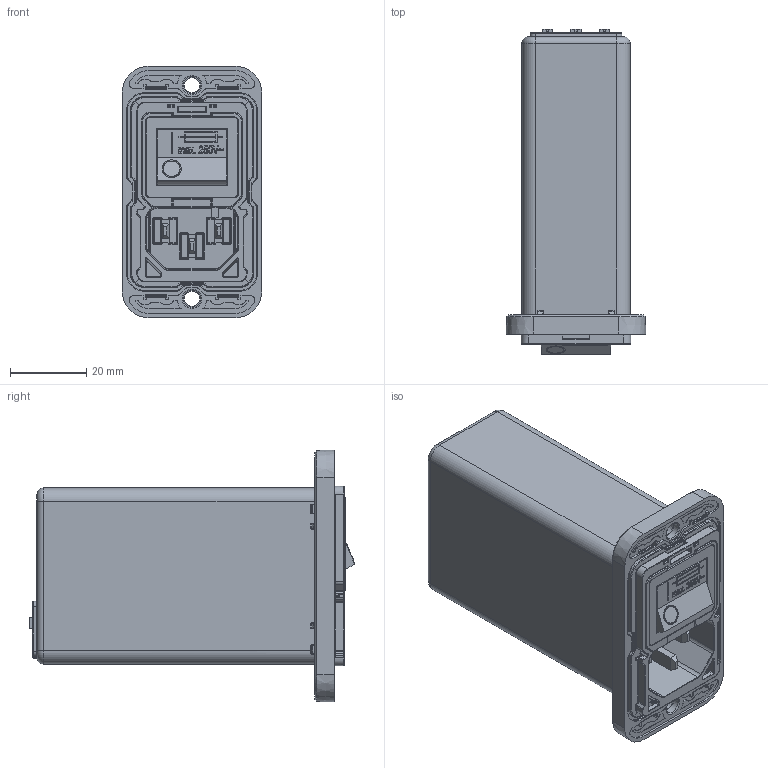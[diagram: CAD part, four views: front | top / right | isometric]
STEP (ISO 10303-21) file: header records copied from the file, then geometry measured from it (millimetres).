
FILE_DESCRIPTION((''),'2;1');
FILE_NAME('H:\02_Projects\A_Others\Z_Support\Luis\Cherry_STP\Step_Files\2 Stage\2_stage_spring_cage_vertical_back.stp','2012-07-26T14:58:40',('Samuel.Meier'),(''),'Autodesk Inventor 2010','Autodesk Inventor 2010','');
FILE_SCHEMA(('AUTOMOTIVE_DESIGN { 1 2 10303 214 0 1 1 1 }'));
Length unit declared in the file: millimetre
Products named in the file (1): 2_stage_spring_cage_vertical_back
Bounding box: 36.67 x 85.34 x 66.07 mm (x, y, z)
Surface area: 72910.8 mm2 (no closed solid volume)
Topology: 0 solids, 12 shells, 3713 faces, 9952 edges, 6194 vertices
Faces by surface type: plane 1545, cylinder 1376, bspline 528, torus 117, sphere 91, cone 56
Full cylindrical faces by diameter (mm): 1 x8, 1.1 x10, 1.2 x4, 1.4 x1, 1.5 x3, 1.7 x2, 2.7 x1, 3.6 x2, 4 x2, 4.5 x2, 6.5 x1, 7.2 x2, 8.2 x2
Entity records: 127029 total; most frequent: CARTESIAN_POINT 31655, ORIENTED_EDGE 19604, DIRECTION 18920, EDGE_CURVE 9802, AXIS2_PLACEMENT_3D 6586, VERTEX_POINT 6183, VECTOR 5748, LINE 5748
